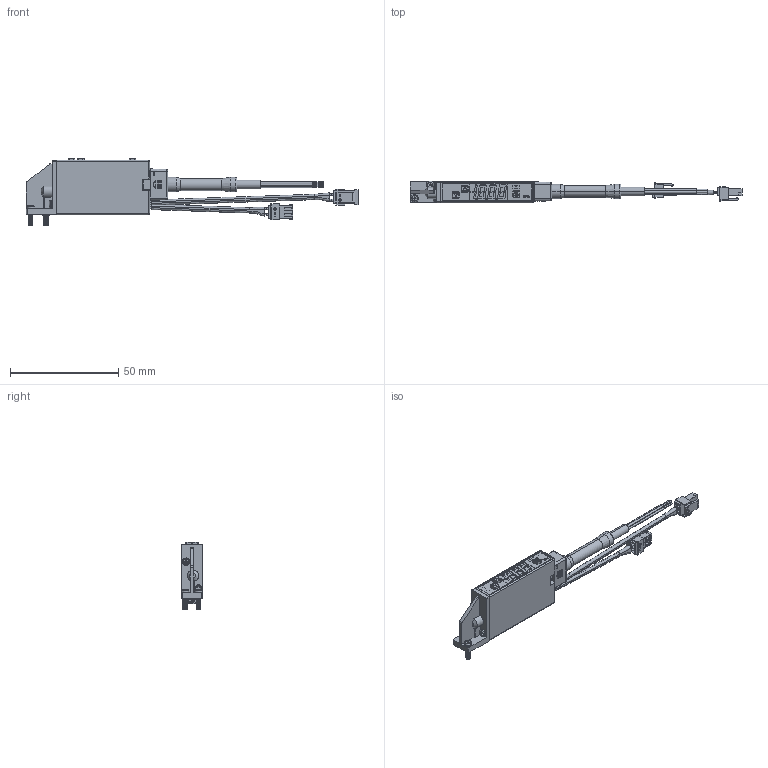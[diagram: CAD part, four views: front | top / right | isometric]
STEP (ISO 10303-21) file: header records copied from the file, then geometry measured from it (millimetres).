
FILE_DESCRIPTION((''),'2;1');
FILE_NAME('KP93_L_ASM','2022-11-18T',('tommy'),(''),'CREO PARAMETRIC BY PTC INC, 2014500','CREO PARAMETRIC BY PTC INC, 2014500','');
FILE_SCHEMA(('CONFIG_CONTROL_DESIGN'));
Products named in the file (15): KP93_L; W-0074-KP92; CN-0048; P-0666_OGYA; CN-0048-04_ASM; SHR-04V-S; W; W-2; SMC-SY100-CONNECTOR; EO-00XX-1; W-3; W-4; EO-00XX-2; CN-0074-02-JSD-SMC_ASM; KP93_L_ASM
Assembly tree (15 placements, depth 3):
  KP93_L_ASM
    KP93_L
    CN-0048-04_ASM
      W-0074-KP92
      CN-0048
      P-0666_OGYA
    CN-0074-02-JSD-SMC_ASM
      SHR-04V-S
      W
      W-2
      SMC-SY100-CONNECTOR  x2
      EO-00XX-1
      W-3
      W-4
      EO-00XX-2
Bounding box: 153.2 x 10.05 x 31.34 mm (x, y, z)
Volume: 10091.9 mm3; surface area: 20753.6 mm2
Topology: 14 solids, 14 shells, 3791 faces, 10084 edges, 6595 vertices
Faces by surface type: plane 2933, cylinder 607, bspline 104, cone 70, torus 68, sphere 9
Entity records: 173728 total; most frequent: CARTESIAN_POINT 82020, ORIENTED_EDGE 19512, DIRECTION 17634, EDGE_CURVE 9756, VECTOR 8052, LINE 8052, VERTEX_POINT 6381, AXIS2_PLACEMENT_3D 4791
